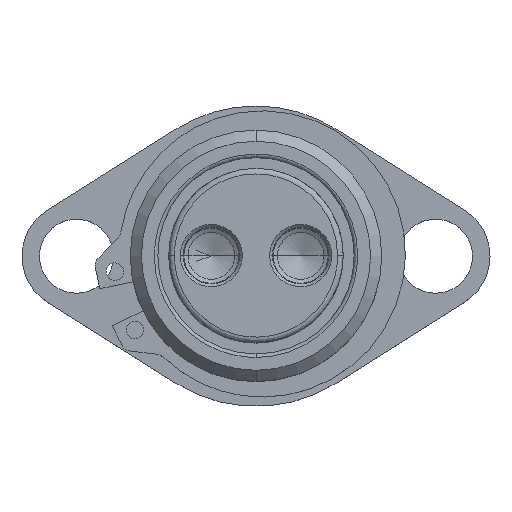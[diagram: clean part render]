
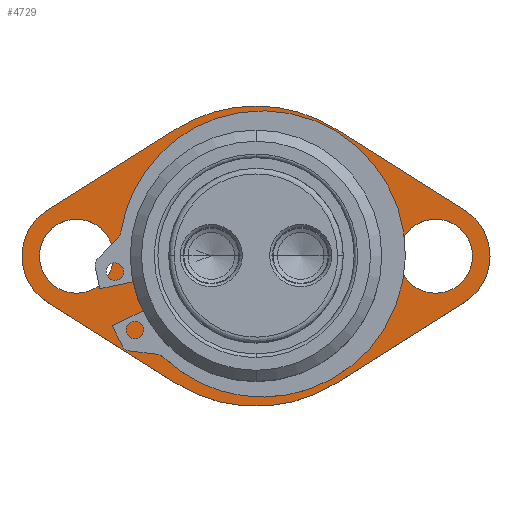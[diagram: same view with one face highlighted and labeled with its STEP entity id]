
A CAD part, top view. The second image highlights one B-rep face of the part: STEP entity #4729.
In plain terms, the highlighted planar face has unit normal (0, 0, 1) as drawn and (0, 1, 0) by its records, which use the part's own axes.
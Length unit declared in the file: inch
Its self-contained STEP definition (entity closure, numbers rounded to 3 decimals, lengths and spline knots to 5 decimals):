
#15 = CARTESIAN_POINT ( 'NONE',  ( 0., 0.25, 0. ) ) ;
#94 = DIRECTION ( 'NONE',  ( 0., 0., -1. ) ) ;
#174 = AXIS2_PLACEMENT_3D ( 'NONE', #4642, #4622, #5078 ) ;
#178 = VERTEX_POINT ( 'NONE', #3508 ) ;
#184 = ORIENTED_EDGE ( 'NONE', *, *, #849, .T. ) ;
#214 = CARTESIAN_POINT ( 'NONE',  ( -1.285, 0.25, 0. ) ) ;
#272 = CARTESIAN_POINT ( 'NONE',  ( -1.285, 0.25, 0. ) ) ;
#411 = LINE ( 'NONE', #5323, #3565 ) ;
#429 = CARTESIAN_POINT ( 'NONE',  ( 1.285, 0.25, 0. ) ) ;
#460 = EDGE_CURVE ( 'NONE', #3955, #5349, #1919, .T. ) ;
#612 = CIRCLE ( 'NONE', #5116, 1.075 ) ;
#613 = CARTESIAN_POINT ( 'NONE',  ( -1.285, 0.25, -0.265 ) ) ;
#630 = ORIENTED_EDGE ( 'NONE', *, *, #3738, .T. ) ;
#632 = LINE ( 'NONE', #5564, #694 ) ;
#634 = DIRECTION ( 'NONE',  ( -0.846, 0., -0.533 ) ) ;
#653 = DIRECTION ( 'NONE',  ( 0., -1., 0. ) ) ;
#665 = DIRECTION ( 'NONE',  ( 0., 0., -1. ) ) ;
#686 = AXIS2_PLACEMENT_3D ( 'NONE', #5067, #653, #2420 ) ;
#694 = VECTOR ( 'NONE', #634, 39.37008 ) ;
#732 = DIRECTION ( 'NONE',  ( -0.846, 0., 0.533 ) ) ;
#750 = CIRCLE ( 'NONE', #4229, 0.9 ) ;
#754 = VERTEX_POINT ( 'NONE', #2894 ) ;
#849 = EDGE_CURVE ( 'NONE', #1713, #754, #4040, .T. ) ;
#893 = CARTESIAN_POINT ( 'NONE',  ( 0., 0.25, 0. ) ) ;
#1046 = DIRECTION ( 'NONE',  ( 0., -1., 0. ) ) ;
#1065 = EDGE_LOOP ( 'NONE', ( #4889, #3797 ) ) ;
#1088 = DIRECTION ( 'NONE',  ( 0., -1., 0. ) ) ;
#1110 = ORIENTED_EDGE ( 'NONE', *, *, #2836, .T. ) ;
#1187 = VERTEX_POINT ( 'NONE', #3902 ) ;
#1196 = ORIENTED_EDGE ( 'NONE', *, *, #2938, .F. ) ;
#1222 = CARTESIAN_POINT ( 'NONE',  ( 0., 0.25, -0.9 ) ) ;
#1355 = AXIS2_PLACEMENT_3D ( 'NONE', #4989, #1933, #2839 ) ;
#1486 = DIRECTION ( 'NONE',  ( 0.846, 0., -0.533 ) ) ;
#1625 = CARTESIAN_POINT ( 'NONE',  ( -1.285, 0.25, 0.265 ) ) ;
#1626 = DIRECTION ( 'NONE',  ( 0., 0., -1. ) ) ;
#1713 = VERTEX_POINT ( 'NONE', #4753 ) ;
#1772 = CARTESIAN_POINT ( 'NONE',  ( 0.57305, 0.25, 0.90952 ) ) ;
#1919 = CIRCLE ( 'NONE', #4448, 1.075 ) ;
#1933 = DIRECTION ( 'NONE',  ( 0., -1., 0. ) ) ;
#1952 = DIRECTION ( 'NONE',  ( 0., 0., -1. ) ) ;
#1993 = CARTESIAN_POINT ( 'NONE',  ( 0., 0.25, 0. ) ) ;
#2028 = VERTEX_POINT ( 'NONE', #1222 ) ;
#2109 = VERTEX_POINT ( 'NONE', #5394 ) ;
#2117 = VERTEX_POINT ( 'NONE', #3218 ) ;
#2164 = DIRECTION ( 'NONE',  ( 0., -1., 0. ) ) ;
#2318 = ORIENTED_EDGE ( 'NONE', *, *, #2979, .F. ) ;
#2420 = DIRECTION ( 'NONE',  ( 0., 0., -1. ) ) ;
#2453 = EDGE_CURVE ( 'NONE', #2117, #2028, #4621, .T. ) ;
#2474 = CIRCLE ( 'NONE', #4082, 0.265 ) ;
#2487 = PLANE ( 'NONE',  #174 ) ;
#2506 = CARTESIAN_POINT ( 'NONE',  ( -0.57305, 0.25, 0.90952 ) ) ;
#2637 = DIRECTION ( 'NONE',  ( 0., 0., -1. ) ) ;
#2638 = AXIS2_PLACEMENT_3D ( 'NONE', #1993, #5080, #5528 ) ;
#2710 = EDGE_CURVE ( 'NONE', #5504, #1187, #5328, .T. ) ;
#2757 = FACE_BOUND ( 'NONE', #1065, .T. ) ;
#2813 = DIRECTION ( 'NONE',  ( 0., -1., 0. ) ) ;
#2836 = EDGE_CURVE ( 'NONE', #3298, #5349, #632, .T. ) ;
#2839 = DIRECTION ( 'NONE',  ( 0., 0., -1. ) ) ;
#2894 = CARTESIAN_POINT ( 'NONE',  ( -1.4929, 0.25, -0.32997 ) ) ;
#2908 = EDGE_LOOP ( 'NONE', ( #2318, #184, #4295, #3355, #5437, #5433, #1196, #1110, #4824 ) ) ;
#2938 = EDGE_CURVE ( 'NONE', #3298, #1187, #5526, .T. ) ;
#2979 = EDGE_CURVE ( 'NONE', #1713, #3955, #5111, .T. ) ;
#3046 = EDGE_CURVE ( 'NONE', #4167, #3490, #5189, .T. ) ;
#3068 = AXIS2_PLACEMENT_3D ( 'NONE', #214, #2813, #4145 ) ;
#3097 = CARTESIAN_POINT ( 'NONE',  ( 0.57305, 0.25, -0.90952 ) ) ;
#3218 = CARTESIAN_POINT ( 'NONE',  ( 0., 0.25, 0.9 ) ) ;
#3240 = ORIENTED_EDGE ( 'NONE', *, *, #3046, .T. ) ;
#3278 = CARTESIAN_POINT ( 'NONE',  ( -1.285, 0.25, 0. ) ) ;
#3298 = VERTEX_POINT ( 'NONE', #4961 ) ;
#3355 = ORIENTED_EDGE ( 'NONE', *, *, #5569, .T. ) ;
#3357 = FACE_BOUND ( 'NONE', #4897, .T. ) ;
#3490 = VERTEX_POINT ( 'NONE', #613 ) ;
#3508 = CARTESIAN_POINT ( 'NONE',  ( 1.285, 0.25, 0.265 ) ) ;
#3543 = DIRECTION ( 'NONE',  ( 0., -1., 0. ) ) ;
#3565 = VECTOR ( 'NONE', #4800, 39.37008 ) ;
#3568 = FACE_BOUND ( 'NONE', #4284, .T. ) ;
#3595 = CARTESIAN_POINT ( 'NONE',  ( 0., 0.25, -1.075 ) ) ;
#3641 = VERTEX_POINT ( 'NONE', #2506 ) ;
#3738 = EDGE_CURVE ( 'NONE', #2028, #2117, #750, .T. ) ;
#3787 = ORIENTED_EDGE ( 'NONE', *, *, #4631, .T. ) ;
#3797 = ORIENTED_EDGE ( 'NONE', *, *, #4586, .T. ) ;
#3801 = AXIS2_PLACEMENT_3D ( 'NONE', #272, #4219, #1626 ) ;
#3882 = ORIENTED_EDGE ( 'NONE', *, *, #2453, .T. ) ;
#3890 = CARTESIAN_POINT ( 'NONE',  ( 0., 0.25, 0. ) ) ;
#3902 = CARTESIAN_POINT ( 'NONE',  ( 1.4929, 0.25, 0.32997 ) ) ;
#3955 = VERTEX_POINT ( 'NONE', #3595 ) ;
#4040 = LINE ( 'NONE', #4279, #5389 ) ;
#4082 = AXIS2_PLACEMENT_3D ( 'NONE', #429, #4331, #4792 ) ;
#4105 = CIRCLE ( 'NONE', #1355, 0.265 ) ;
#4108 = CARTESIAN_POINT ( 'NONE',  ( 0.57305, 0.25, 0.90952 ) ) ;
#4145 = DIRECTION ( 'NONE',  ( 0., 0., -1. ) ) ;
#4167 = VERTEX_POINT ( 'NONE', #1625 ) ;
#4219 = DIRECTION ( 'NONE',  ( 0., -1., 0. ) ) ;
#4229 = AXIS2_PLACEMENT_3D ( 'NONE', #893, #5291, #2637 ) ;
#4261 = VERTEX_POINT ( 'NONE', #5120 ) ;
#4279 = CARTESIAN_POINT ( 'NONE',  ( -1.4929, 0.25, -0.32997 ) ) ;
#4284 = EDGE_LOOP ( 'NONE', ( #3787, #3240 ) ) ;
#4295 = ORIENTED_EDGE ( 'NONE', *, *, #5213, .F. ) ;
#4331 = DIRECTION ( 'NONE',  ( 0., -1., 0. ) ) ;
#4448 = AXIS2_PLACEMENT_3D ( 'NONE', #3890, #2164, #5705 ) ;
#4586 = EDGE_CURVE ( 'NONE', #178, #4261, #4105, .T. ) ;
#4621 = CIRCLE ( 'NONE', #5123, 0.9 ) ;
#4622 = DIRECTION ( 'NONE',  ( 0., 1., 0. ) ) ;
#4631 = EDGE_CURVE ( 'NONE', #3490, #4167, #4895, .T. ) ;
#4642 = CARTESIAN_POINT ( 'NONE',  ( -1.285, 0.25, 0. ) ) ;
#4704 = AXIS2_PLACEMENT_3D ( 'NONE', #3278, #1088, #665 ) ;
#4729 = ADVANCED_FACE ( 'NONE', ( #3568, #5106, #2757, #3357 ), #2487, .T. ) ;
#4753 = CARTESIAN_POINT ( 'NONE',  ( -0.57305, 0.25, -0.90952 ) ) ;
#4792 = DIRECTION ( 'NONE',  ( 0., 0., -1. ) ) ;
#4800 = DIRECTION ( 'NONE',  ( 0.846, 0., 0.533 ) ) ;
#4824 = ORIENTED_EDGE ( 'NONE', *, *, #460, .F. ) ;
#4861 = EDGE_CURVE ( 'NONE', #4261, #178, #2474, .T. ) ;
#4889 = ORIENTED_EDGE ( 'NONE', *, *, #4861, .T. ) ;
#4895 = CIRCLE ( 'NONE', #4704, 0.265 ) ;
#4897 = EDGE_LOOP ( 'NONE', ( #630, #3882 ) ) ;
#4961 = CARTESIAN_POINT ( 'NONE',  ( 1.4929, 0.25, -0.32997 ) ) ;
#4989 = CARTESIAN_POINT ( 'NONE',  ( 1.285, 0.25, 0. ) ) ;
#5036 = CARTESIAN_POINT ( 'NONE',  ( 0., 0.25, 0. ) ) ;
#5067 = CARTESIAN_POINT ( 'NONE',  ( 1.285, 0.25, 0. ) ) ;
#5078 = DIRECTION ( 'NONE',  ( 0., 0., 1. ) ) ;
#5080 = DIRECTION ( 'NONE',  ( 0., -1., 0. ) ) ;
#5106 = FACE_OUTER_BOUND ( 'NONE', #2908, .T. ) ;
#5111 = CIRCLE ( 'NONE', #2638, 1.075 ) ;
#5116 = AXIS2_PLACEMENT_3D ( 'NONE', #5036, #1046, #1952 ) ;
#5120 = CARTESIAN_POINT ( 'NONE',  ( 1.285, 0.25, -0.265 ) ) ;
#5123 = AXIS2_PLACEMENT_3D ( 'NONE', #15, #3543, #94 ) ;
#5155 = EDGE_CURVE ( 'NONE', #5504, #3641, #612, .T. ) ;
#5189 = CIRCLE ( 'NONE', #3801, 0.265 ) ;
#5213 = EDGE_CURVE ( 'NONE', #2109, #754, #5729, .T. ) ;
#5291 = DIRECTION ( 'NONE',  ( 0., -1., 0. ) ) ;
#5323 = CARTESIAN_POINT ( 'NONE',  ( -1.4929, 0.25, 0.32997 ) ) ;
#5328 = LINE ( 'NONE', #4108, #5669 ) ;
#5349 = VERTEX_POINT ( 'NONE', #3097 ) ;
#5389 = VECTOR ( 'NONE', #732, 39.37008 ) ;
#5394 = CARTESIAN_POINT ( 'NONE',  ( -1.4929, 0.25, 0.32997 ) ) ;
#5433 = ORIENTED_EDGE ( 'NONE', *, *, #2710, .T. ) ;
#5437 = ORIENTED_EDGE ( 'NONE', *, *, #5155, .F. ) ;
#5504 = VERTEX_POINT ( 'NONE', #1772 ) ;
#5526 = CIRCLE ( 'NONE', #686, 0.39 ) ;
#5528 = DIRECTION ( 'NONE',  ( 0., 0., -1. ) ) ;
#5564 = CARTESIAN_POINT ( 'NONE',  ( 0.57305, 0.25, -0.90952 ) ) ;
#5569 = EDGE_CURVE ( 'NONE', #2109, #3641, #411, .T. ) ;
#5669 = VECTOR ( 'NONE', #1486, 39.37008 ) ;
#5705 = DIRECTION ( 'NONE',  ( 0., 0., -1. ) ) ;
#5729 = CIRCLE ( 'NONE', #3068, 0.39 ) ;
